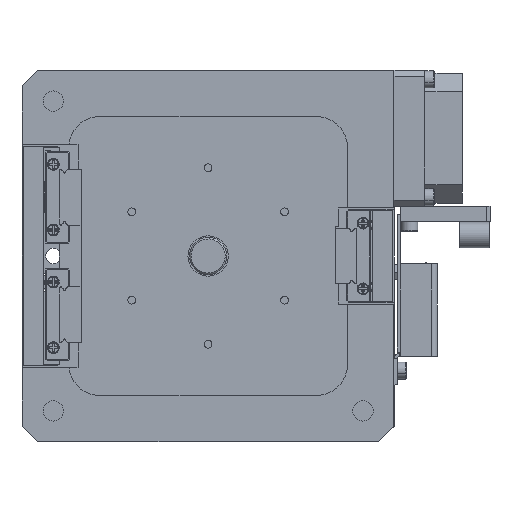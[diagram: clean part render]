
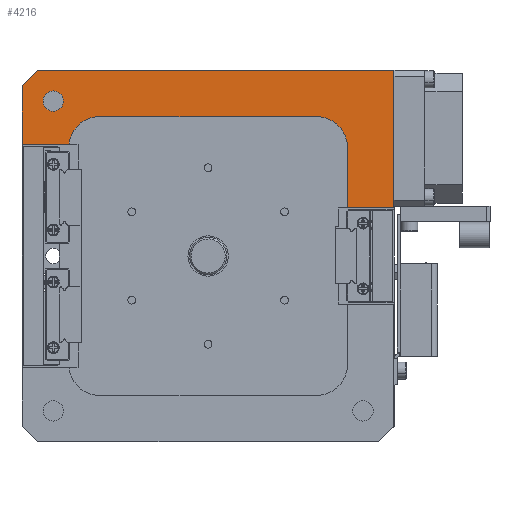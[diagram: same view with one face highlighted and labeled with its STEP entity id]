
A CAD part, front view. The second image highlights one B-rep face of the part: STEP entity #4216.
In plain terms, the highlighted planar face has unit normal (0, -1, 0).
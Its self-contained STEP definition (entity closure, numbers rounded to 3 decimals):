
#216 = DIRECTION ( 'NONE',  ( 0., -1., 0. ) ) ;
#539 = CARTESIAN_POINT ( 'NONE',  ( -83.475, -41.427, 53.004 ) ) ;
#1073 = DIRECTION ( 'NONE',  ( 0., 0., -1. ) ) ;
#1871 = ORIENTED_EDGE ( 'NONE', *, *, #32348, .T. ) ;
#2800 = CIRCLE ( 'NONE', #4722, 10. ) ;
#3903 = CARTESIAN_POINT ( 'NONE',  ( -83.475, -41.427, 46.404 ) ) ;
#4011 = CIRCLE ( 'NONE', #49772, 3.3 ) ;
#4216 = ADVANCED_FACE ( 'NONE', ( #42918, #11936 ), #17972, .T. ) ;
#4722 = AXIS2_PLACEMENT_3D ( 'NONE', #24529, #33226, #41151 ) ;
#4987 = EDGE_CURVE ( 'NONE', #27346, #22953, #21041, .T. ) ;
#6063 = CARTESIAN_POINT ( 'NONE',  ( -90.975, -41.427, 57.204 ) ) ;
#6147 = VERTEX_POINT ( 'NONE', #20744 ) ;
#6488 = VECTOR ( 'NONE', #13077, 1000. ) ;
#6771 = VECTOR ( 'NONE', #10314, 1000. ) ;
#7048 = LINE ( 'NONE', #12760, #39983 ) ;
#7323 = CARTESIAN_POINT ( 'NONE',  ( -93.475, -41.427, 54.704 ) ) ;
#7877 = VECTOR ( 'NONE', #23275, 1000. ) ;
#8125 = CARTESIAN_POINT ( 'NONE',  ( -83.475, -41.427, 49.704 ) ) ;
#8235 = VERTEX_POINT ( 'NONE', #11156 ) ;
#8758 = EDGE_LOOP ( 'NONE', ( #12896, #17021, #53225, #37836, #1871, #46742, #9271, #36516, #45947, #33507 ) ) ;
#9085 = LINE ( 'NONE', #32999, #52502 ) ;
#9271 = ORIENTED_EDGE ( 'NONE', *, *, #22467, .T. ) ;
#9901 = DIRECTION ( 'NONE',  ( 0., -1., 0. ) ) ;
#10314 = DIRECTION ( 'NONE',  ( -0.707, 0., -0.707 ) ) ;
#10787 = EDGE_CURVE ( 'NONE', #6147, #53106, #9085, .T. ) ;
#11156 = CARTESIAN_POINT ( 'NONE',  ( 26.525, -41.427, 15.204 ) ) ;
#11259 = AXIS2_PLACEMENT_3D ( 'NONE', #37319, #37680, #45773 ) ;
#11936 = FACE_OUTER_BOUND ( 'NONE', #8758, .T. ) ;
#12760 = CARTESIAN_POINT ( 'NONE',  ( -93.475, -41.427, 59.704 ) ) ;
#12896 = ORIENTED_EDGE ( 'NONE', *, *, #10787, .F. ) ;
#13077 = DIRECTION ( 'NONE',  ( 1., 0., 0. ) ) ;
#13985 = CARTESIAN_POINT ( 'NONE',  ( 11.525, -41.427, 34.704 ) ) ;
#14701 = LINE ( 'NONE', #6063, #6771 ) ;
#15538 = LINE ( 'NONE', #47316, #22134 ) ;
#15582 = EDGE_CURVE ( 'NONE', #23509, #31991, #4011, .T. ) ;
#16327 = AXIS2_PLACEMENT_3D ( 'NONE', #43544, #47772, #26758 ) ;
#16533 = CIRCLE ( 'NONE', #16327, 3.3 ) ;
#17021 = ORIENTED_EDGE ( 'NONE', *, *, #48956, .T. ) ;
#17972 = PLANE ( 'NONE',  #32893 ) ;
#19394 = VERTEX_POINT ( 'NONE', #13985 ) ;
#20484 = LINE ( 'NONE', #37326, #33736 ) ;
#20744 = CARTESIAN_POINT ( 'NONE',  ( -88.475, -41.427, 59.704 ) ) ;
#20995 = DIRECTION ( 'NONE',  ( 0., 0., 1. ) ) ;
#21041 = LINE ( 'NONE', #32344, #7877 ) ;
#21564 = CARTESIAN_POINT ( 'NONE',  ( 11.525, -41.427, -45.296 ) ) ;
#22134 = VECTOR ( 'NONE', #30906, 1000. ) ;
#22317 = CARTESIAN_POINT ( 'NONE',  ( 11.525, -41.427, 15.204 ) ) ;
#22467 = EDGE_CURVE ( 'NONE', #27346, #19394, #41599, .T. ) ;
#22953 = VERTEX_POINT ( 'NONE', #54480 ) ;
#23062 = VERTEX_POINT ( 'NONE', #22317 ) ;
#23275 = DIRECTION ( 'NONE',  ( -1., 0., 0. ) ) ;
#23509 = VERTEX_POINT ( 'NONE', #539 ) ;
#24529 = CARTESIAN_POINT ( 'NONE',  ( -68.475, -41.427, 34.704 ) ) ;
#24844 = DIRECTION ( 'NONE',  ( 1., 0., 0. ) ) ;
#26387 = ORIENTED_EDGE ( 'NONE', *, *, #15582, .F. ) ;
#26758 = DIRECTION ( 'NONE',  ( 0., 0., -1. ) ) ;
#27346 = VERTEX_POINT ( 'NONE', #37927 ) ;
#27876 = EDGE_CURVE ( 'NONE', #53106, #8235, #15538, .T. ) ;
#27966 = CARTESIAN_POINT ( 'NONE',  ( -78.425, -41.427, 35.704 ) ) ;
#28665 = EDGE_LOOP ( 'NONE', ( #42958, #26387 ) ) ;
#29286 = DIRECTION ( 'NONE',  ( 0., 0., -1. ) ) ;
#30557 = VECTOR ( 'NONE', #20995, 1000. ) ;
#30906 = DIRECTION ( 'NONE',  ( 0., 0., -1. ) ) ;
#31991 = VERTEX_POINT ( 'NONE', #3903 ) ;
#32099 = EDGE_CURVE ( 'NONE', #23062, #19394, #53490, .T. ) ;
#32344 = CARTESIAN_POINT ( 'NONE',  ( -78.475, -41.427, 44.704 ) ) ;
#32348 = EDGE_CURVE ( 'NONE', #34442, #22953, #2800, .T. ) ;
#32893 = AXIS2_PLACEMENT_3D ( 'NONE', #43594, #9901, #1073 ) ;
#32999 = CARTESIAN_POINT ( 'NONE',  ( -93.475, -41.427, 59.704 ) ) ;
#33226 = DIRECTION ( 'NONE',  ( 0., 1., 0. ) ) ;
#33507 = ORIENTED_EDGE ( 'NONE', *, *, #27876, .F. ) ;
#33736 = VECTOR ( 'NONE', #44892, 1000. ) ;
#34442 = VERTEX_POINT ( 'NONE', #27966 ) ;
#36516 = ORIENTED_EDGE ( 'NONE', *, *, #32099, .F. ) ;
#36848 = VERTEX_POINT ( 'NONE', #52176 ) ;
#37319 = CARTESIAN_POINT ( 'NONE',  ( 1.525, -41.427, 34.704 ) ) ;
#37326 = CARTESIAN_POINT ( 'NONE',  ( -75.475, -41.427, 35.704 ) ) ;
#37680 = DIRECTION ( 'NONE',  ( 0., 1., 0. ) ) ;
#37836 = ORIENTED_EDGE ( 'NONE', *, *, #43653, .F. ) ;
#37927 = CARTESIAN_POINT ( 'NONE',  ( 1.525, -41.427, 44.704 ) ) ;
#37932 = EDGE_CURVE ( 'NONE', #36848, #49087, #7048, .T. ) ;
#38363 = DIRECTION ( 'NONE',  ( 0., 0., 1. ) ) ;
#39983 = VECTOR ( 'NONE', #38363, 1000. ) ;
#41151 = DIRECTION ( 'NONE',  ( 0., 0., -1. ) ) ;
#41599 = CIRCLE ( 'NONE', #11259, 10. ) ;
#42918 = FACE_BOUND ( 'NONE', #28665, .T. ) ;
#42958 = ORIENTED_EDGE ( 'NONE', *, *, #51009, .F. ) ;
#43544 = CARTESIAN_POINT ( 'NONE',  ( -83.475, -41.427, 49.704 ) ) ;
#43594 = CARTESIAN_POINT ( 'NONE',  ( -33.475, -41.427, -0.296 ) ) ;
#43653 = EDGE_CURVE ( 'NONE', #34442, #36848, #20484, .T. ) ;
#44892 = DIRECTION ( 'NONE',  ( -1., 0., 0. ) ) ;
#45773 = DIRECTION ( 'NONE',  ( 0., 0., -1. ) ) ;
#45947 = ORIENTED_EDGE ( 'NONE', *, *, #45973, .T. ) ;
#45973 = EDGE_CURVE ( 'NONE', #23062, #8235, #47389, .T. ) ;
#46464 = CARTESIAN_POINT ( 'NONE',  ( 26.525, -41.427, 59.704 ) ) ;
#46742 = ORIENTED_EDGE ( 'NONE', *, *, #4987, .F. ) ;
#47316 = CARTESIAN_POINT ( 'NONE',  ( 26.525, -41.427, 59.704 ) ) ;
#47389 = LINE ( 'NONE', #54602, #6488 ) ;
#47772 = DIRECTION ( 'NONE',  ( 0., -1., 0. ) ) ;
#48956 = EDGE_CURVE ( 'NONE', #6147, #49087, #14701, .T. ) ;
#49087 = VERTEX_POINT ( 'NONE', #7323 ) ;
#49772 = AXIS2_PLACEMENT_3D ( 'NONE', #8125, #216, #29286 ) ;
#51009 = EDGE_CURVE ( 'NONE', #31991, #23509, #16533, .T. ) ;
#52176 = CARTESIAN_POINT ( 'NONE',  ( -93.475, -41.427, 35.704 ) ) ;
#52502 = VECTOR ( 'NONE', #24844, 1000. ) ;
#53106 = VERTEX_POINT ( 'NONE', #46464 ) ;
#53225 = ORIENTED_EDGE ( 'NONE', *, *, #37932, .F. ) ;
#53490 = LINE ( 'NONE', #21564, #30557 ) ;
#54480 = CARTESIAN_POINT ( 'NONE',  ( -68.475, -41.427, 44.704 ) ) ;
#54602 = CARTESIAN_POINT ( 'NONE',  ( 8.525, -41.427, 15.204 ) ) ;
